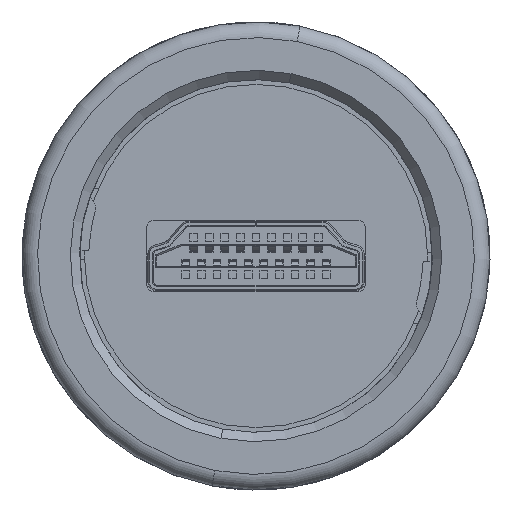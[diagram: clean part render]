
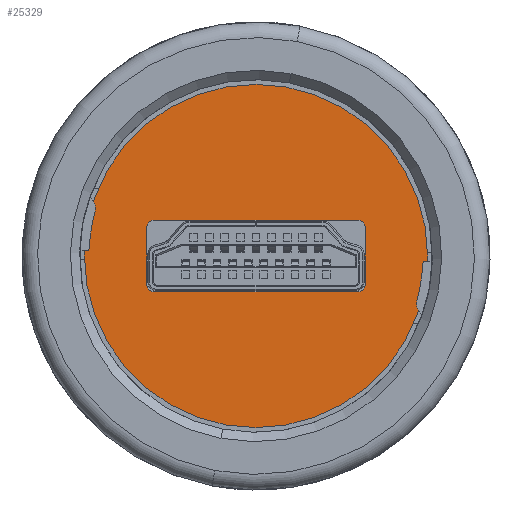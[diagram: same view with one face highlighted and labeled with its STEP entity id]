
A CAD part, front view. The second image highlights one B-rep face of the part: STEP entity #25329.
In plain terms, the highlighted planar face has unit normal (0, -1, 0) as drawn and (0, 0, -1) by its records, which use the part's own axes.
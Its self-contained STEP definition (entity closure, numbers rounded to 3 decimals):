
#1163 = EDGE_CURVE ( 'NONE', #46556, #46557, #42016, .T. ) ;
#1184 = EDGE_CURVE ( 'NONE', #46557, #46556, #42070, .T. ) ;
#1186 = EDGE_CURVE ( 'NONE', #46563, #46566, #42044, .T. ) ;
#1188 = EDGE_CURVE ( 'NONE', #46566, #46568, #42083, .T. ) ;
#1190 = EDGE_CURVE ( 'NONE', #46568, #46569, #42074, .T. ) ;
#1192 = EDGE_CURVE ( 'NONE', #46569, #46570, #42093, .T. ) ;
#1193 = EDGE_CURVE ( 'NONE', #46570, #46571, #42087, .T. ) ;
#1195 = EDGE_CURVE ( 'NONE', #46571, #46572, #42101, .T. ) ;
#1197 = EDGE_CURVE ( 'NONE', #46572, #46573, #42091, .T. ) ;
#1199 = EDGE_CURVE ( 'NONE', #46573, #46563, #42111, .T. ) ;
#2576 = ORIENTED_EDGE ( 'NONE', *, *, #1184, .F. ) ;
#2577 = ORIENTED_EDGE ( 'NONE', *, *, #1163, .F. ) ;
#2578 = ORIENTED_EDGE ( 'NONE', *, *, #1186, .T. ) ;
#2579 = ORIENTED_EDGE ( 'NONE', *, *, #1188, .T. ) ;
#2580 = ORIENTED_EDGE ( 'NONE', *, *, #1190, .T. ) ;
#2581 = ORIENTED_EDGE ( 'NONE', *, *, #1192, .T. ) ;
#2582 = ORIENTED_EDGE ( 'NONE', *, *, #1193, .T. ) ;
#2583 = ORIENTED_EDGE ( 'NONE', *, *, #1195, .T. ) ;
#2584 = ORIENTED_EDGE ( 'NONE', *, *, #1197, .T. ) ;
#2585 = ORIENTED_EDGE ( 'NONE', *, *, #1199, .T. ) ;
#8715 = FACE_OUTER_BOUND ( 'NONE', #12620, .T. ) ;
#8718 = FACE_BOUND ( 'NONE', #12635, .T. ) ;
#10688 = CARTESIAN_POINT ( 'NONE',  ( 0., 0., 0. ) ) ;
#10694 = PLANE ( 'NONE',  #15687 ) ;
#10696 = DIRECTION ( 'NONE',  ( 0., 0., 1. ) ) ;
#10697 = DIRECTION ( 'NONE',  ( 1., 0., 0. ) ) ;
#11461 = AXIS2_PLACEMENT_3D ( 'NONE', #31114, #31116, #31118 ) ;
#11480 = AXIS2_PLACEMENT_3D ( 'NONE', #31244, #31246, #31247 ) ;
#11483 = AXIS2_PLACEMENT_3D ( 'NONE', #31267, #31269, #31270 ) ;
#11486 = AXIS2_PLACEMENT_3D ( 'NONE', #31289, #31291, #31292 ) ;
#11488 = AXIS2_PLACEMENT_3D ( 'NONE', #31307, #31309, #31310 ) ;
#11491 = AXIS2_PLACEMENT_3D ( 'NONE', #31330, #31332, #31333 ) ;
#12620 = EDGE_LOOP ( 'NONE', ( #2576, #2577 ) ) ;
#12635 = EDGE_LOOP ( 'NONE', ( #2578, #2579, #2580, #2581, #2582, #2583, #2584, #2585 ) ) ;
#15687 = AXIS2_PLACEMENT_3D ( 'NONE', #10688, #10696, #10697 ) ;
#23710 = CARTESIAN_POINT ( 'NONE',  ( 11., 0., 0. ) ) ;
#23711 = CARTESIAN_POINT ( 'NONE',  ( -11., 0., 0. ) ) ;
#23717 = CARTESIAN_POINT ( 'NONE',  ( 6.5, 2.3, 0. ) ) ;
#23720 = CARTESIAN_POINT ( 'NONE',  ( -6.5, 2.3, 0. ) ) ;
#23722 = CARTESIAN_POINT ( 'NONE',  ( -7., 1.8, 0. ) ) ;
#23723 = CARTESIAN_POINT ( 'NONE',  ( -7., -1.8, 0. ) ) ;
#23724 = CARTESIAN_POINT ( 'NONE',  ( -6.5, -2.3, 0. ) ) ;
#23725 = CARTESIAN_POINT ( 'NONE',  ( 6.5, -2.3, 0. ) ) ;
#23726 = CARTESIAN_POINT ( 'NONE',  ( 7., -1.8, 0. ) ) ;
#23727 = CARTESIAN_POINT ( 'NONE',  ( 7., 1.8, 0. ) ) ;
#25329 = ADVANCED_FACE ( 'NONE', ( #8715, #8718 ), #10694, .F. ) ;
#31114 = CARTESIAN_POINT ( 'NONE',  ( 0., 0., 0. ) ) ;
#31116 = DIRECTION ( 'NONE',  ( 0., 0., 1. ) ) ;
#31118 = DIRECTION ( 'NONE',  ( 1., 0., 0. ) ) ;
#31244 = CARTESIAN_POINT ( 'NONE',  ( 0., 0., 0. ) ) ;
#31246 = DIRECTION ( 'NONE',  ( 0., 0., 1. ) ) ;
#31247 = DIRECTION ( 'NONE',  ( 1., 0., 0. ) ) ;
#31254 = CARTESIAN_POINT ( 'NONE',  ( -7., 2.3, 0. ) ) ;
#31256 = DIRECTION ( 'NONE',  ( -1., 0., 0. ) ) ;
#31267 = CARTESIAN_POINT ( 'NONE',  ( -6.5, 1.8, 0. ) ) ;
#31269 = DIRECTION ( 'NONE',  ( 0., 0., 1. ) ) ;
#31270 = DIRECTION ( 'NONE',  ( 1., 0., 0. ) ) ;
#31276 = CARTESIAN_POINT ( 'NONE',  ( -7., 2.3, 0. ) ) ;
#31278 = DIRECTION ( 'NONE',  ( 0., -1., 0. ) ) ;
#31281 = DIRECTION ( 'NONE',  ( 1., 0., 0. ) ) ;
#31283 = CARTESIAN_POINT ( 'NONE',  ( -7., -2.3, 0. ) ) ;
#31289 = CARTESIAN_POINT ( 'NONE',  ( -6.5, -1.8, 0. ) ) ;
#31291 = DIRECTION ( 'NONE',  ( 0., 0., 1. ) ) ;
#31292 = DIRECTION ( 'NONE',  ( 1., 0., 0. ) ) ;
#31307 = CARTESIAN_POINT ( 'NONE',  ( 6.5, -1.8, 0. ) ) ;
#31309 = DIRECTION ( 'NONE',  ( 0., 0., 1. ) ) ;
#31310 = DIRECTION ( 'NONE',  ( 1., 0., 0. ) ) ;
#31316 = CARTESIAN_POINT ( 'NONE',  ( 7., 2.3, 0. ) ) ;
#31318 = DIRECTION ( 'NONE',  ( 0., 1., 0. ) ) ;
#31330 = CARTESIAN_POINT ( 'NONE',  ( 6.5, 1.8, 0. ) ) ;
#31332 = DIRECTION ( 'NONE',  ( 0., 0., 1. ) ) ;
#31333 = DIRECTION ( 'NONE',  ( 1., 0., 0. ) ) ;
#42016 = CIRCLE ( 'NONE', #11461, 11. ) ;
#42044 = LINE ( 'NONE', #31254, #42076 ) ;
#42070 = CIRCLE ( 'NONE', #11480, 11. ) ;
#42074 = LINE ( 'NONE', #31276, #42086 ) ;
#42076 = VECTOR ( 'NONE', #31256, 1000. ) ;
#42083 = CIRCLE ( 'NONE', #11483, 0.5 ) ;
#42086 = VECTOR ( 'NONE', #31278, 1000. ) ;
#42087 = LINE ( 'NONE', #31283, #42090 ) ;
#42090 = VECTOR ( 'NONE', #31281, 1000. ) ;
#42091 = LINE ( 'NONE', #31316, #42104 ) ;
#42093 = CIRCLE ( 'NONE', #11486, 0.5 ) ;
#42101 = CIRCLE ( 'NONE', #11488, 0.5 ) ;
#42104 = VECTOR ( 'NONE', #31318, 1000. ) ;
#42111 = CIRCLE ( 'NONE', #11491, 0.5 ) ;
#46556 = VERTEX_POINT ( 'NONE', #23710 ) ;
#46557 = VERTEX_POINT ( 'NONE', #23711 ) ;
#46563 = VERTEX_POINT ( 'NONE', #23717 ) ;
#46566 = VERTEX_POINT ( 'NONE', #23720 ) ;
#46568 = VERTEX_POINT ( 'NONE', #23722 ) ;
#46569 = VERTEX_POINT ( 'NONE', #23723 ) ;
#46570 = VERTEX_POINT ( 'NONE', #23724 ) ;
#46571 = VERTEX_POINT ( 'NONE', #23725 ) ;
#46572 = VERTEX_POINT ( 'NONE', #23726 ) ;
#46573 = VERTEX_POINT ( 'NONE', #23727 ) ;
